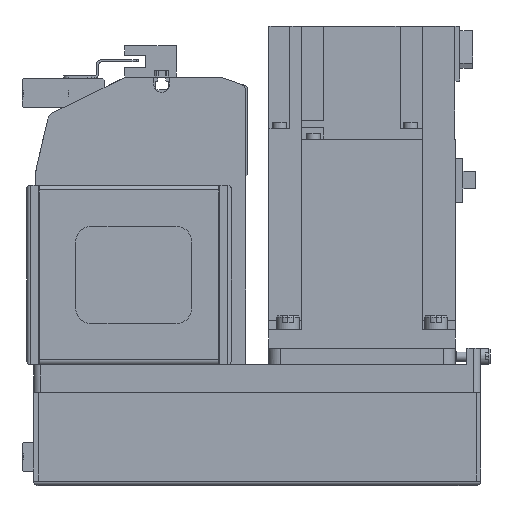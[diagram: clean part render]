
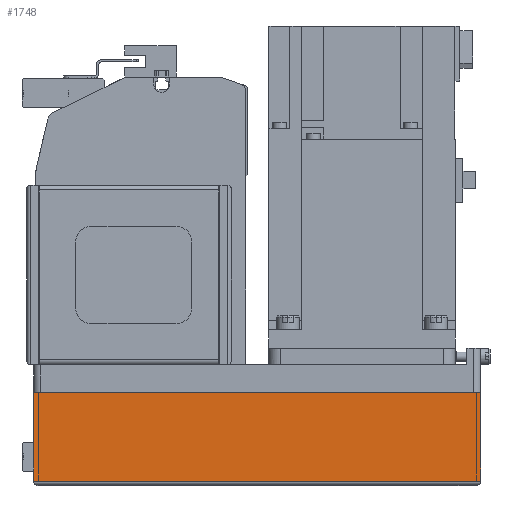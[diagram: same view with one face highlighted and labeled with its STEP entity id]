
A CAD part, left-side view. The second image highlights one B-rep face of the part: STEP entity #1748.
In plain terms, the highlighted planar face has unit normal (-1, 0, 0) as drawn and (0, 1, 0) by its records, which use the part's own axes.
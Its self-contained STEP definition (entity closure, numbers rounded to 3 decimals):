
#1748 = ADVANCED_FACE( '', ( #4180 ), #4181, .T. );
#4180 = FACE_OUTER_BOUND( '', #7488, .T. );
#4181 = PLANE( '', #7489 );
#7488 = EDGE_LOOP( '', ( #12408, #12409, #12410, #12411 ) );
#7489 = AXIS2_PLACEMENT_3D( '', #12412, #12413, #12414 );
#12408 = ORIENTED_EDGE( '', *, *, #19445, .F. );
#12409 = ORIENTED_EDGE( '', *, *, #18846, .F. );
#12410 = ORIENTED_EDGE( '', *, *, #20335, .T. );
#12411 = ORIENTED_EDGE( '', *, *, #20336, .T. );
#12412 = CARTESIAN_POINT( '', ( -192., 40., -50. ) );
#12413 = DIRECTION( '', ( 0., 1., 0. ) );
#12414 = DIRECTION( '', ( 0., 0., 1. ) );
#18846 = EDGE_CURVE( '', #22341, #22344, #22345, .T. );
#19445 = EDGE_CURVE( '', #22344, #23407, #23408, .T. );
#20335 = EDGE_CURVE( '', #22341, #24877, #24878, .T. );
#20336 = EDGE_CURVE( '', #24877, #23407, #24879, .T. );
#22341 = VERTEX_POINT( '', #27544 );
#22344 = VERTEX_POINT( '', #27547 );
#22345 = LINE( '', #27548, #27549 );
#23407 = VERTEX_POINT( '', #29229 );
#23408 = LINE( '', #29230, #29231 );
#24877 = VERTEX_POINT( '', #31347 );
#24878 = LINE( '', #31348, #31349 );
#24879 = LINE( '', #31350, #31351 );
#27544 = CARTESIAN_POINT( '', ( -192., 40., -50. ) );
#27547 = CARTESIAN_POINT( '', ( 0., 40., -50. ) );
#27548 = CARTESIAN_POINT( '', ( -192., 40., -50. ) );
#27549 = VECTOR( '', #35196, 1000. );
#29229 = CARTESIAN_POINT( '', ( 0., 40., -12.1 ) );
#29230 = CARTESIAN_POINT( '', ( 0., 40., -50. ) );
#29231 = VECTOR( '', #35982, 1000. );
#31347 = CARTESIAN_POINT( '', ( -192., 40., -12.1 ) );
#31348 = CARTESIAN_POINT( '', ( -192., 40., -50. ) );
#31349 = VECTOR( '', #37098, 1000. );
#31350 = CARTESIAN_POINT( '', ( -192., 40., -12.1 ) );
#31351 = VECTOR( '', #37099, 1000. );
#35196 = DIRECTION( '', ( 1., 0., 0. ) );
#35982 = DIRECTION( '', ( 0., 0., 1. ) );
#37098 = DIRECTION( '', ( 0., 0., 1. ) );
#37099 = DIRECTION( '', ( 1., 0., 0. ) );
